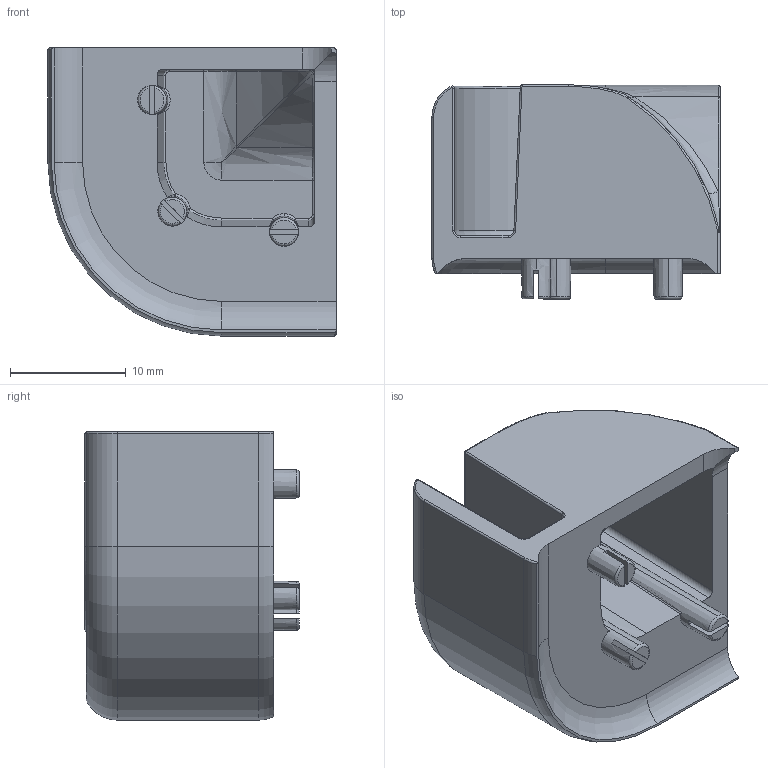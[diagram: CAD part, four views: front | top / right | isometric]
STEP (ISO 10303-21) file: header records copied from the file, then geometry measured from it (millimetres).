
FILE_DESCRIPTION (( 'STEP AP203' ), '1' );
FILE_NAME ('013.025.118.STEP', '2020-09-21T06:59:31', ( '' ), ( '' ), 'SwSTEP 2.0', 'SolidWorks 2018', '' );
FILE_SCHEMA (( 'CONFIG_CONTROL_DESIGN' ));
Length unit declared in the file: millimetre
Products named in the file (1): 013.025.118
Bounding box: 24.9 x 18.5 x 24.9 mm (x, y, z)
Volume: 3786.1 mm3; surface area: 3980.6 mm2
Topology: 1 solids, 1 shells, 162 faces, 404 edges, 238 vertices
Faces by surface type: cylinder 42, bspline 38, torus 37, plane 35, cone 9, sphere 1
Entity records: 5731 total; most frequent: CARTESIAN_POINT 2092, ORIENTED_EDGE 796, DIRECTION 714, EDGE_CURVE 398, AXIS2_PLACEMENT_3D 299, VERTEX_POINT 238, CIRCLE 174, FACE_OUTER_BOUND 162
